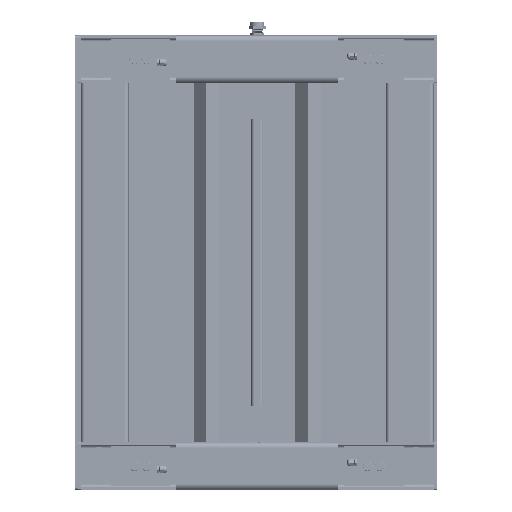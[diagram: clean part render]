
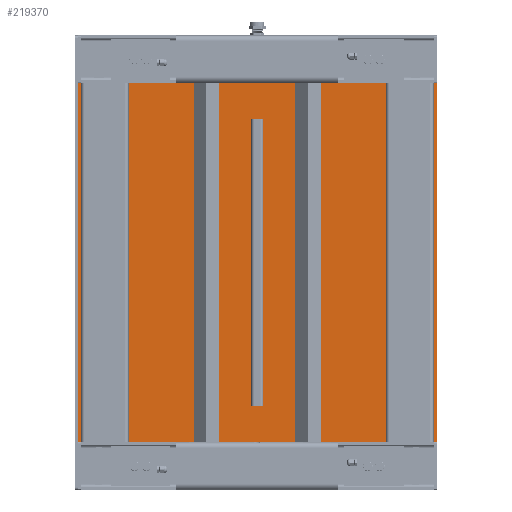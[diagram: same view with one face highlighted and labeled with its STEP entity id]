
A CAD part, front view. The second image highlights one B-rep face of the part: STEP entity #219370.
In plain terms, the highlighted planar face has unit normal (0, -1, 0).
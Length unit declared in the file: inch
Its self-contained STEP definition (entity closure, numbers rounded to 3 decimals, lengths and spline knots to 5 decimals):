
#16210 = AXIS2_PLACEMENT_3D ( 'NONE', #320850, #389242, #225440 ) ;
#45747 = DIRECTION ( 'NONE',  ( 0., 0., 1. ) ) ;
#59190 = ORIENTED_EDGE ( 'NONE', *, *, #133636, .T. ) ;
#62835 = CARTESIAN_POINT ( 'NONE',  ( -15., 0., -15. ) ) ;
#63226 = LINE ( 'NONE', #119361, #333743 ) ;
#80728 = EDGE_CURVE ( 'NONE', #407596, #337100, #154766, .T. ) ;
#86176 = DIRECTION ( 'NONE',  ( 0., 0., -1. ) ) ;
#116725 = ORIENTED_EDGE ( 'NONE', *, *, #306593, .T. ) ;
#116830 = VERTEX_POINT ( 'NONE', #62835 ) ;
#118951 = VECTOR ( 'NONE', #45747, 39.37008 ) ;
#119361 = CARTESIAN_POINT ( 'NONE',  ( -15., 0., 15. ) ) ;
#130055 = PLANE ( 'NONE',  #16210 ) ;
#133636 = EDGE_CURVE ( 'NONE', #324303, #407596, #269709, .T. ) ;
#139262 = CARTESIAN_POINT ( 'NONE',  ( 15., 0., -15. ) ) ;
#144716 = CARTESIAN_POINT ( 'NONE',  ( -15., 0., -15. ) ) ;
#150433 = ORIENTED_EDGE ( 'NONE', *, *, #244317, .T. ) ;
#154766 = LINE ( 'NONE', #403820, #204042 ) ;
#174271 = CARTESIAN_POINT ( 'NONE',  ( 15., 0., 15. ) ) ;
#181786 = DIRECTION ( 'NONE',  ( -1., 0., 0. ) ) ;
#204042 = VECTOR ( 'NONE', #181786, 39.37008 ) ;
#219370 = ADVANCED_FACE ( 'N', ( #262678 ), #130055, .T. ) ;
#222786 = ORIENTED_EDGE ( 'NONE', *, *, #80728, .T. ) ;
#225440 = DIRECTION ( 'NONE',  ( 0., 0., -1. ) ) ;
#240135 = LINE ( 'NONE', #144716, #361416 ) ;
#244317 = EDGE_CURVE ( 'NONE', #337100, #116830, #63226, .T. ) ;
#248351 = CARTESIAN_POINT ( 'NONE',  ( -15., 0., 15. ) ) ;
#262678 = FACE_OUTER_BOUND ( 'NONE', #292327, .T. ) ;
#269709 = LINE ( 'NONE', #174271, #118951 ) ;
#292327 = EDGE_LOOP ( 'NONE', ( #150433, #116725, #59190, #222786 ) ) ;
#306593 = EDGE_CURVE ( 'NONE', #116830, #324303, #240135, .T. ) ;
#306810 = CARTESIAN_POINT ( 'NONE',  ( 15., 0., 15. ) ) ;
#320850 = CARTESIAN_POINT ( 'NONE',  ( 15., 0., -15. ) ) ;
#324303 = VERTEX_POINT ( 'NONE', #139262 ) ;
#333743 = VECTOR ( 'NONE', #86176, 39.37008 ) ;
#337100 = VERTEX_POINT ( 'NONE', #248351 ) ;
#337621 = DIRECTION ( 'NONE',  ( 1., 0., 0. ) ) ;
#361416 = VECTOR ( 'NONE', #337621, 39.37008 ) ;
#389242 = DIRECTION ( 'NONE',  ( 0., -1., 0. ) ) ;
#403820 = CARTESIAN_POINT ( 'NONE',  ( -15., 0., 15. ) ) ;
#407596 = VERTEX_POINT ( 'NONE', #306810 ) ;
